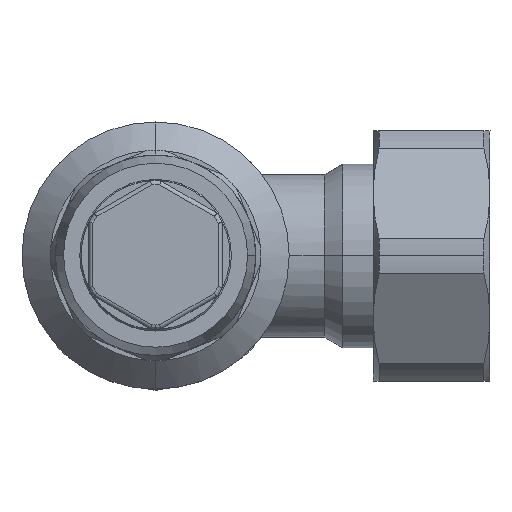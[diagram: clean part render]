
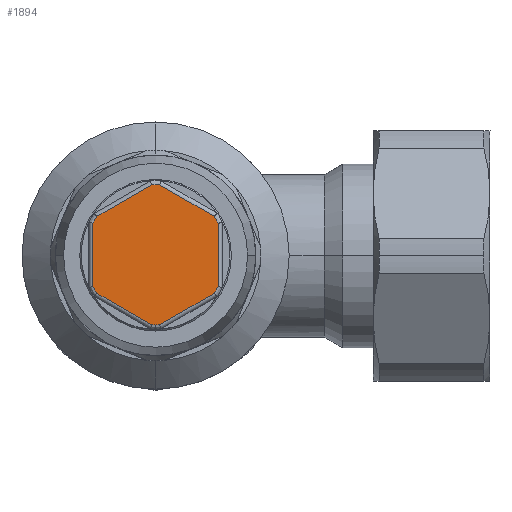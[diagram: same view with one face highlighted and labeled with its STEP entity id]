
A CAD part, top view. The second image highlights one B-rep face of the part: STEP entity #1894.
In plain terms, the highlighted planar face has unit normal (0, 0, 1).
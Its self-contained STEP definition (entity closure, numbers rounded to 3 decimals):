
#144 = DIRECTION ( 'NONE',  ( 0.866, -0.5, 0. ) ) ;
#257 = EDGE_CURVE ( 'NONE', #14620, #4815, #10741, .T. ) ;
#259 = EDGE_CURVE ( 'NONE', #14620, #551, #887, .T. ) ;
#367 = CARTESIAN_POINT ( 'NONE',  ( -7.026, 4.604, 57. ) ) ;
#432 = EDGE_CURVE ( 'NONE', #4241, #2396, #9929, .T. ) ;
#481 = EDGE_CURVE ( 'NONE', #16434, #4850, #3902, .T. ) ;
#551 = VERTEX_POINT ( 'NONE', #9012 ) ;
#867 = PLANE ( 'NONE',  #9811 ) ;
#887 = B_SPLINE_CURVE_WITH_KNOTS ( 'NONE', 3,
 ( #12350, #6661, #5191, #8197 ),
 .UNSPECIFIED., .F., .F.,
 ( 4, 4 ),
 ( 0., 1. ),
 .UNSPECIFIED. ) ;
#1064 = VECTOR ( 'NONE', #144, 1000. ) ;
#1072 = CARTESIAN_POINT ( 'NONE',  ( 0.158, 8.404, 57. ) ) ;
#1123 = VERTEX_POINT ( 'NONE', #12983 ) ;
#1255 = CARTESIAN_POINT ( 'NONE',  ( 0.474, 8.387, 57. ) ) ;
#1355 = B_SPLINE_CURVE_WITH_KNOTS ( 'NONE', 3,
 ( #367, #17065, #5861, #4597 ),
 .UNSPECIFIED., .F., .F.,
 ( 4, 4 ),
 ( 0., 1. ),
 .UNSPECIFIED. ) ;
#1492 = CARTESIAN_POINT ( 'NONE',  ( 7.026, 4.604, 57. ) ) ;
#1678 = CARTESIAN_POINT ( 'NONE',  ( 7.199, 4.339, 57. ) ) ;
#1718 = CARTESIAN_POINT ( 'NONE',  ( -0.316, -8.396, 57. ) ) ;
#1821 = CARTESIAN_POINT ( 'NONE',  ( 0., -8.4, 57. ) ) ;
#1894 = ADVANCED_FACE ( 'NONE', ( #5266 ), #867, .T. ) ;
#1986 = VERTEX_POINT ( 'NONE', #17531 ) ;
#2207 = ORIENTED_EDGE ( 'NONE', *, *, #12794, .F. ) ;
#2305 = VERTEX_POINT ( 'NONE', #11750 ) ;
#2325 = ORIENTED_EDGE ( 'NONE', *, *, #15924, .F. ) ;
#2396 = VERTEX_POINT ( 'NONE', #3842 ) ;
#2515 = CARTESIAN_POINT ( 'NONE',  ( -0.158, 8.404, 57. ) ) ;
#2635 = ORIENTED_EDGE ( 'NONE', *, *, #432, .F. ) ;
#2696 = DIRECTION ( 'NONE',  ( 0., -1., 0. ) ) ;
#3049 = CARTESIAN_POINT ( 'NONE',  ( -0.158, -8.4, 57. ) ) ;
#3128 = DIRECTION ( 'NONE',  ( 0., 1., 0. ) ) ;
#3274 = VECTOR ( 'NONE', #11899, 1000. ) ;
#3842 = CARTESIAN_POINT ( 'NONE',  ( -7.5, 3.783, 57. ) ) ;
#3902 = B_SPLINE_CURVE_WITH_KNOTS ( 'NONE', 3,
 ( #7122, #1718, #3049, #1821 ),
 .UNSPECIFIED., .F., .F.,
 ( 4, 4 ),
 ( 0., 0.5 ),
 .UNSPECIFIED. ) ;
#4020 = CARTESIAN_POINT ( 'NONE',  ( 3.75, -6.495, 57. ) ) ;
#4094 = CARTESIAN_POINT ( 'NONE',  ( 0.474, -8.387, 57. ) ) ;
#4188 = CARTESIAN_POINT ( 'NONE',  ( 7.377, -4.978, 57. ) ) ;
#4241 = VERTEX_POINT ( 'NONE', #13257 ) ;
#4258 = B_SPLINE_CURVE_WITH_KNOTS ( 'NONE', 3,
 ( #5888, #17004, #10169, #10676 ),
 .UNSPECIFIED., .F., .F.,
 ( 4, 4 ),
 ( 0., 1. ),
 .UNSPECIFIED. ) ;
#4324 = VERTEX_POINT ( 'NONE', #12583 ) ;
#4502 = ORIENTED_EDGE ( 'NONE', *, *, #7472, .T. ) ;
#4597 = CARTESIAN_POINT ( 'NONE',  ( -7.5, 3.783, 57. ) ) ;
#4815 = VERTEX_POINT ( 'NONE', #7678 ) ;
#4850 = VERTEX_POINT ( 'NONE', #8482 ) ;
#4944 = ORIENTED_EDGE ( 'NONE', *, *, #10537, .T. ) ;
#5191 = CARTESIAN_POINT ( 'NONE',  ( 7.357, -4.065, 57. ) ) ;
#5212 = ORIENTED_EDGE ( 'NONE', *, *, #14954, .F. ) ;
#5266 = FACE_OUTER_BOUND ( 'NONE', #16500, .T. ) ;
#5351 = DIRECTION ( 'NONE',  ( 0., 0., 1. ) ) ;
#5861 = CARTESIAN_POINT ( 'NONE',  ( -7.357, 4.065, 57. ) ) ;
#5888 = CARTESIAN_POINT ( 'NONE',  ( -7.5, -3.783, 57. ) ) ;
#6144 = CARTESIAN_POINT ( 'NONE',  ( -3.75, -6.495, 57. ) ) ;
#6255 = B_SPLINE_CURVE_WITH_KNOTS ( 'NONE', 3,
 ( #10894, #10718, #13622, #4094 ),
 .UNSPECIFIED., .F., .F.,
 ( 4, 4 ),
 ( 0.5, 1. ),
 .UNSPECIFIED. ) ;
#6358 = EDGE_CURVE ( 'NONE', #1986, #16472, #8872, .T. ) ;
#6661 = CARTESIAN_POINT ( 'NONE',  ( 7.199, -4.339, 57. ) ) ;
#6767 = VECTOR ( 'NONE', #16292, 1000. ) ;
#7122 = CARTESIAN_POINT ( 'NONE',  ( -0.474, -8.387, 57. ) ) ;
#7206 = CARTESIAN_POINT ( 'NONE',  ( 7.026, 4.604, 57. ) ) ;
#7230 = CARTESIAN_POINT ( 'NONE',  ( -3.75, 6.495, 57. ) ) ;
#7255 = ORIENTED_EDGE ( 'NONE', *, *, #9924, .T. ) ;
#7472 = EDGE_CURVE ( 'NONE', #4850, #4815, #6255, .T. ) ;
#7678 = CARTESIAN_POINT ( 'NONE',  ( 0.474, -8.387, 57. ) ) ;
#7894 = B_SPLINE_CURVE_WITH_KNOTS ( 'NONE', 3,
 ( #1255, #1072, #2515, #12432 ),
 .UNSPECIFIED., .F., .F.,
 ( 4, 4 ),
 ( 0., 1. ),
 .UNSPECIFIED. ) ;
#8197 = CARTESIAN_POINT ( 'NONE',  ( 7.5, -3.783, 57. ) ) ;
#8405 = ORIENTED_EDGE ( 'NONE', *, *, #13125, .F. ) ;
#8482 = CARTESIAN_POINT ( 'NONE',  ( 0., -8.4, 57. ) ) ;
#8788 = DIRECTION ( 'NONE',  ( -0.866, 0.5, 0. ) ) ;
#8815 = VECTOR ( 'NONE', #2696, 1000. ) ;
#8872 = B_SPLINE_CURVE_WITH_KNOTS ( 'NONE', 3,
 ( #12580, #9702, #1678, #1492 ),
 .UNSPECIFIED., .F., .F.,
 ( 4, 4 ),
 ( 0., 1. ),
 .UNSPECIFIED. ) ;
#9012 = CARTESIAN_POINT ( 'NONE',  ( 7.5, -3.783, 57. ) ) ;
#9702 = CARTESIAN_POINT ( 'NONE',  ( 7.357, 4.065, 57. ) ) ;
#9726 = DIRECTION ( 'NONE',  ( 1., 0., 0. ) ) ;
#9811 = AXIS2_PLACEMENT_3D ( 'NONE', #4188, #5351, #9726 ) ;
#9924 = EDGE_CURVE ( 'NONE', #4241, #1123, #4258, .T. ) ;
#9929 = LINE ( 'NONE', #15441, #17255 ) ;
#10122 = LINE ( 'NONE', #7230, #3274 ) ;
#10169 = CARTESIAN_POINT ( 'NONE',  ( -7.199, -4.339, 57. ) ) ;
#10537 = EDGE_CURVE ( 'NONE', #2305, #4324, #7894, .T. ) ;
#10676 = CARTESIAN_POINT ( 'NONE',  ( -7.026, -4.604, 57. ) ) ;
#10718 = CARTESIAN_POINT ( 'NONE',  ( 0.158, -8.4, 57. ) ) ;
#10741 = LINE ( 'NONE', #4020, #6767 ) ;
#10782 = ORIENTED_EDGE ( 'NONE', *, *, #17588, .T. ) ;
#10894 = CARTESIAN_POINT ( 'NONE',  ( 0., -8.4, 57. ) ) ;
#11674 = VERTEX_POINT ( 'NONE', #14344 ) ;
#11750 = CARTESIAN_POINT ( 'NONE',  ( 0.474, 8.387, 57. ) ) ;
#11899 = DIRECTION ( 'NONE',  ( 0.866, 0.5, 0. ) ) ;
#11998 = CARTESIAN_POINT ( 'NONE',  ( 7.5, 0., 57. ) ) ;
#12339 = LINE ( 'NONE', #11998, #8815 ) ;
#12350 = CARTESIAN_POINT ( 'NONE',  ( 7.026, -4.604, 57. ) ) ;
#12432 = CARTESIAN_POINT ( 'NONE',  ( -0.474, 8.387, 57. ) ) ;
#12580 = CARTESIAN_POINT ( 'NONE',  ( 7.5, 3.783, 57. ) ) ;
#12583 = CARTESIAN_POINT ( 'NONE',  ( -0.474, 8.387, 57. ) ) ;
#12794 = EDGE_CURVE ( 'NONE', #16434, #1123, #15945, .T. ) ;
#12895 = CARTESIAN_POINT ( 'NONE',  ( 3.75, 6.495, 57. ) ) ;
#12983 = CARTESIAN_POINT ( 'NONE',  ( -7.026, -4.604, 57. ) ) ;
#13125 = EDGE_CURVE ( 'NONE', #11674, #4324, #10122, .T. ) ;
#13257 = CARTESIAN_POINT ( 'NONE',  ( -7.5, -3.783, 57. ) ) ;
#13622 = CARTESIAN_POINT ( 'NONE',  ( 0.316, -8.396, 57. ) ) ;
#13659 = CARTESIAN_POINT ( 'NONE',  ( -0.474, -8.387, 57. ) ) ;
#13676 = VECTOR ( 'NONE', #8788, 1000. ) ;
#14242 = ORIENTED_EDGE ( 'NONE', *, *, #481, .T. ) ;
#14344 = CARTESIAN_POINT ( 'NONE',  ( -7.026, 4.604, 57. ) ) ;
#14620 = VERTEX_POINT ( 'NONE', #15093 ) ;
#14624 = ORIENTED_EDGE ( 'NONE', *, *, #257, .F. ) ;
#14954 = EDGE_CURVE ( 'NONE', #1986, #551, #12339, .T. ) ;
#15093 = CARTESIAN_POINT ( 'NONE',  ( 7.026, -4.604, 57. ) ) ;
#15431 = LINE ( 'NONE', #12895, #1064 ) ;
#15441 = CARTESIAN_POINT ( 'NONE',  ( -7.5, 0., 57. ) ) ;
#15895 = ORIENTED_EDGE ( 'NONE', *, *, #259, .T. ) ;
#15924 = EDGE_CURVE ( 'NONE', #2305, #16472, #15431, .T. ) ;
#15945 = LINE ( 'NONE', #6144, #13676 ) ;
#16146 = ORIENTED_EDGE ( 'NONE', *, *, #6358, .T. ) ;
#16292 = DIRECTION ( 'NONE',  ( -0.866, -0.5, 0. ) ) ;
#16434 = VERTEX_POINT ( 'NONE', #13659 ) ;
#16472 = VERTEX_POINT ( 'NONE', #7206 ) ;
#16500 = EDGE_LOOP ( 'NONE', ( #8405, #10782, #2635, #7255, #2207, #14242, #4502, #14624, #15895, #5212, #16146, #2325, #4944 ) ) ;
#17004 = CARTESIAN_POINT ( 'NONE',  ( -7.357, -4.065, 57. ) ) ;
#17065 = CARTESIAN_POINT ( 'NONE',  ( -7.199, 4.339, 57. ) ) ;
#17255 = VECTOR ( 'NONE', #3128, 1000. ) ;
#17531 = CARTESIAN_POINT ( 'NONE',  ( 7.5, 3.783, 57. ) ) ;
#17588 = EDGE_CURVE ( 'NONE', #11674, #2396, #1355, .T. ) ;
